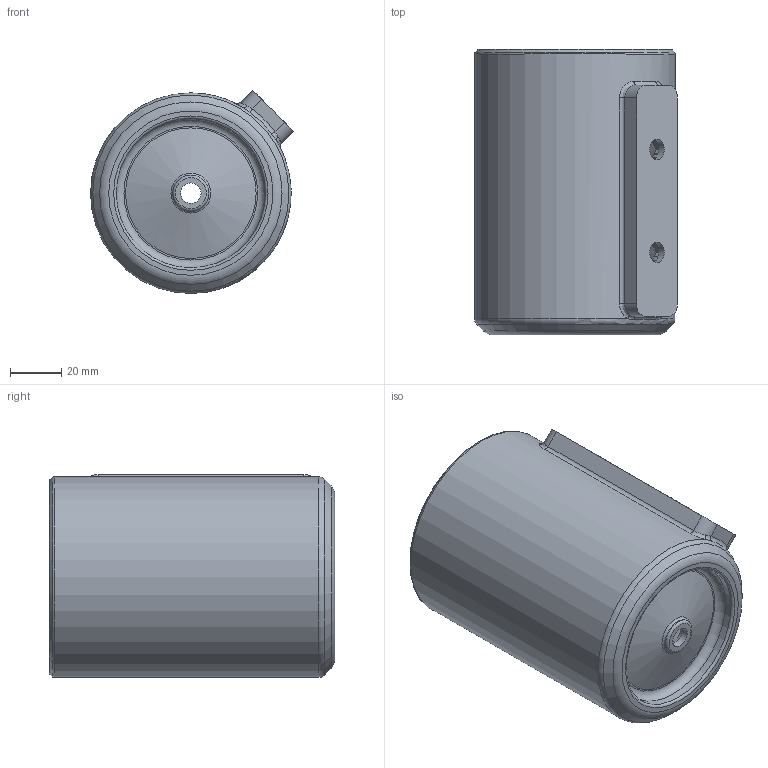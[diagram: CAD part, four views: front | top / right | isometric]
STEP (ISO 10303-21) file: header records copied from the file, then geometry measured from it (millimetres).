
FILE_DESCRIPTION (( 'STEP AP214' ), '1' );
FILE_NAME ('MONO_038-p226_02.STEP', '2026-03-24T01:27:15', ( '' ), ( '' ), 'SwSTEP 2.0', 'SolidWorks 2024', '' );
FILE_SCHEMA (( 'AUTOMOTIVE_DESIGN' ));
Length unit declared in the file: millimetre
Products named in the file (1): MONO_038-p226_02
Bounding box: 78.92 x 111 x 78.92 mm (x, y, z)
Volume: 149187.3 mm3; surface area: 61043.6 mm2
Topology: 1 solids, 1 shells, 118 faces, 302 edges, 194 vertices
Faces by surface type: plane 77, cylinder 16, torus 14, bspline 7, cone 4
Full cylindrical faces by diameter (mm): 6.5 x2, 8 x3, 14 x1, 58 x1, 68 x1, 78 x1
Entity records: 3727 total; most frequent: CARTESIAN_POINT 1017, ORIENTED_EDGE 544, DIRECTION 513, EDGE_CURVE 272, LINE 201, VECTOR 201, VERTEX_POINT 189, EDGE_LOOP 157
